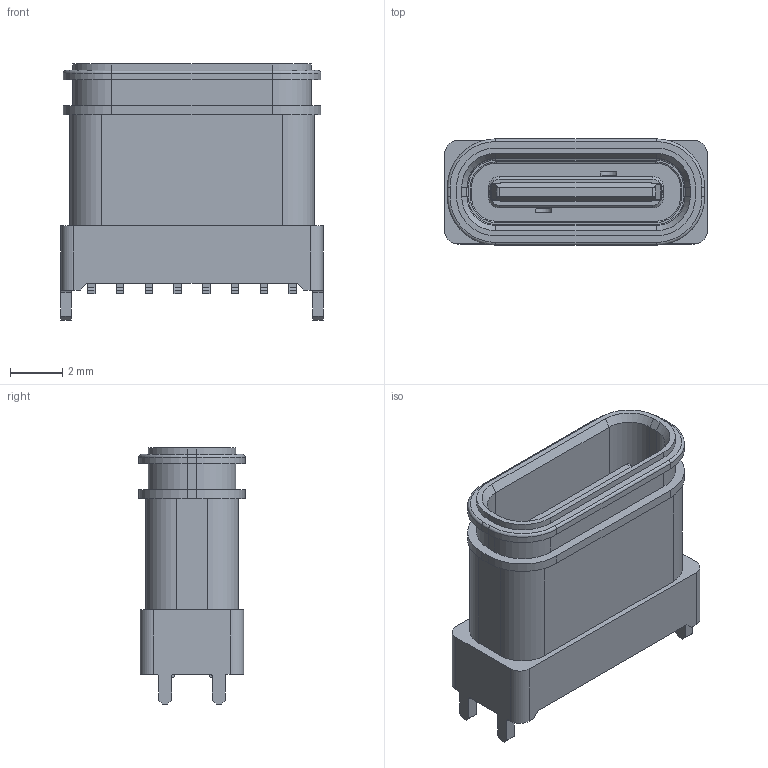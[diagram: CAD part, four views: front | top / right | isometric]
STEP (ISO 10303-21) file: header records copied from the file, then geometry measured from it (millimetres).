
FILE_DESCRIPTION((''),'2;1');
FILE_NAME('1030050','2023-07-14T09:50:12',('Administrator'),(''),'CREO PARAMETRIC BY PTC INC, 2019080','CREO PARAMETRIC BY PTC INC, 2019080','');
FILE_SCHEMA(('CONFIG_CONTROL_DESIGN'));
Length unit declared in the file: millimetre
Products named in the file (1): 1030050
Bounding box: 10.04 x 4.06 x 9.8 mm (x, y, z)
Volume: 180.9 mm3; surface area: 576.4 mm2
Topology: 1 solids, 32 shells, 779 faces, 2012 edges, 1320 vertices
Faces by surface type: plane 539, cylinder 168, cone 40, torus 28, bspline 4
Entity records: 24035 total; most frequent: CARTESIAN_POINT 4774, ORIENTED_EDGE 4020, DIRECTION 3906, EDGE_CURVE 2010, VECTOR 1512, LINE 1512, VERTEX_POINT 1320, AXIS2_PLACEMENT_3D 1197
